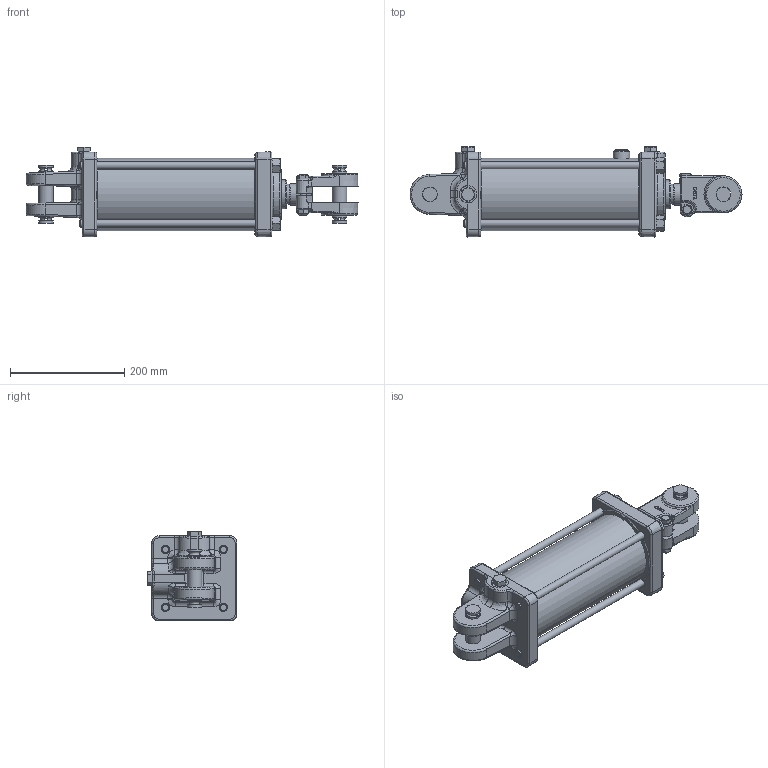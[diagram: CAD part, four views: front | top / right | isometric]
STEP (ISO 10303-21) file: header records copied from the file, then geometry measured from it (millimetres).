
FILE_DESCRIPTION((''),'2;1');
FILE_NAME('\\SRVR-ENG\EngSales\PMS-AM-2544.stp','2012-05-17T08:09:40',('KneiflD'),(''),'Autodesk Inventor 2012','Autodesk Inventor 2012','');
FILE_SCHEMA(('AUTOMOTIVE_DESIGN { 1 0 10303 214 1 1 1 1 }'));
Length unit declared in the file: inch
Products named in the file (28): PMS-AM-2544; 062000079; 052000094; 200300181V; 142000004V; 082000092V; 082000091V; 211100272V; 011100732; 100000326; 100000325; 170002105; 220000223; 072000192V; 220000211V; 240064450V; 240061244V; 240000244V; 240011112V; 240000024V; 250014200V; 240020009V; 170301136; 220000107V; 200300104V; 200300040V; 190400004V
Assembly tree (35 placements, depth 3):
  PMS-AM-2544
    062000079
      052000094
      200300181V
    142000004V
    082000092V
      082000091V
      211100272V
    011100732
    100000326
      100000325
      170002105
      220000223
    072000192V
    220000211V
    240064450V
    240061244V  x2
    240000244V  x2
    240011112V
    240000024V
    250014200V
    240020009V
    170301136  x4
      170301136
      220000107V
    200300104V
    200300040V  x3
    190400004V  x2
Bounding box: 581.8 x 157.66 x 157.66 mm (x, y, z)
Volume: 3871677.2 mm3; surface area: 710907.5 mm2
Topology: 34 solids, 34 shells, 935 faces, 2116 edges, 1251 vertices
Faces by surface type: plane 273, cylinder 234, cone 180, bspline 172, torus 64, sphere 12
Full cylindrical faces by diameter (mm): 1.575 x1, 2.769 x1, 5.156 x2, 5.159 x2, 7.938 x3, 9.347 x1, 11.113 x1, 11.906 x2, 12.7 x4, 14.351 x4, 14.529 x4, 16.272 x4, 16.764 x3, 17.066 x3, 17.463 x1, 17.501 x4, 19.05 x4, 22.352 x1, 25.4 x6, 25.781 x4, 26.289 x1, 28.524 x1, 28.575 x1, 28.651 x1, 30.429 x3, 31.115 x1, 35.331 x1, 37.897 x1, 50.8 x2, 51.054 x1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
Entity records: 27953 total; most frequent: CARTESIAN_POINT 10953, DIRECTION 3234, ORIENTED_EDGE 3168, EDGE_CURVE 1584, AXIS2_PLACEMENT_3D 1377, VERTEX_POINT 1028, EDGE_LOOP 1022, FACE_OUTER_BOUND 777
